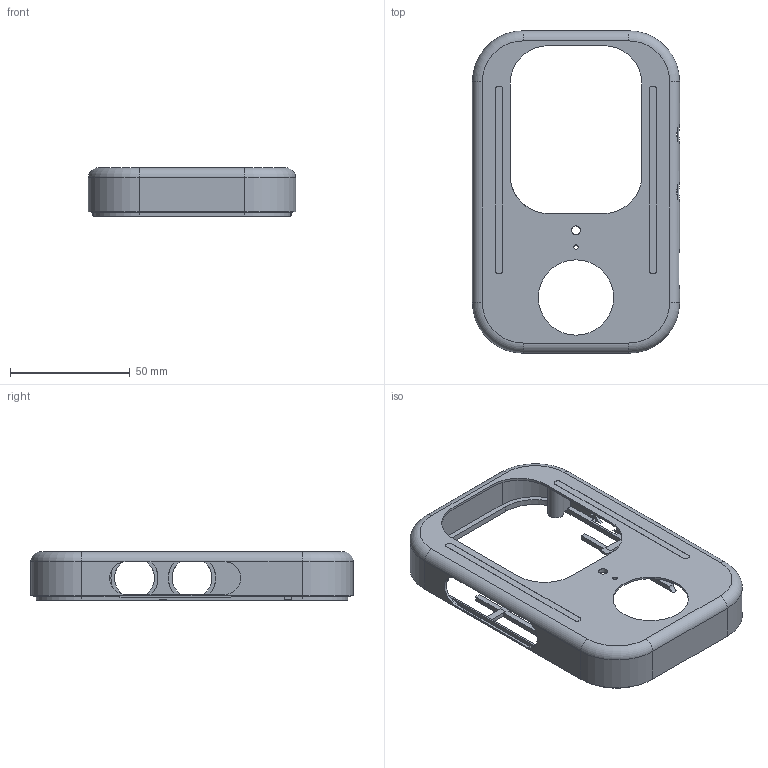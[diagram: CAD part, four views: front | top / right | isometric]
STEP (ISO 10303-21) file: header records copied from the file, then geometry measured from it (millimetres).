
FILE_DESCRIPTION(('Open CASCADE Model'),'2;1');
FILE_NAME('Open CASCADE Shape Model','2026-09-06T11:32:41',('Author'),( 'Open CASCADE'),'Open CASCADE STEP processor 7.7','Open CASCADE 7.7' ,'Unknown');
FILE_SCHEMA(('AUTOMOTIVE_DESIGN { 1 0 10303 214 1 1 1 1 }'));
Length unit declared in the file: millimetre
Products named in the file (1): Open CASCADE STEP translator 7.7 1
Bounding box: 86.4 x 134.4 x 20.27 mm (x, y, z)
Volume: 23253.6 mm3; surface area: 31273.4 mm2
Topology: 1 solids, 1 shells, 310 faces, 938 edges, 622 vertices
Faces by surface type: plane 208, cylinder 94, torus 8
Full cylindrical faces by diameter (mm): 1.6 x2, 1.8 x1, 3.7 x1, 5.6 x2, 31.4 x1
Entity records: 23899 total; most frequent: CARTESIAN_POINT 5479, DIRECTION 3404, LINE 2133, VECTOR 2133, ORIENTED_EDGE 1876, PCURVE 1876, DEFINITIONAL_REPRESENTATION 1876, EDGE_CURVE 938
